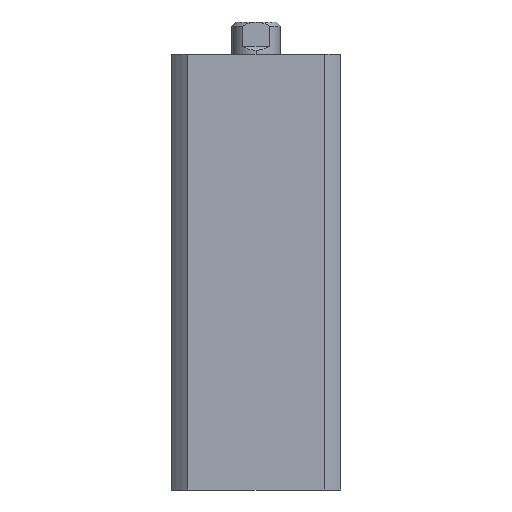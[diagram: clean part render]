
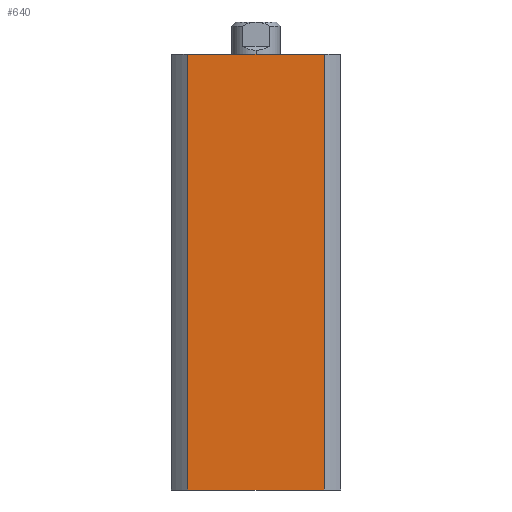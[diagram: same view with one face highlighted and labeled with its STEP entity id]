
A CAD part, left-side view. The second image highlights one B-rep face of the part: STEP entity #640.
In plain terms, the highlighted planar face has unit normal (-1, 0, 0).
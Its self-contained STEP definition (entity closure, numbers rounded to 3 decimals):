
#3 = VERTEX_POINT ( 'NONE', #295 ) ;
#295 = CARTESIAN_POINT ( 'NONE',  ( -21., -16.971, 108. ) ) ;
#574 = EDGE_CURVE ( 'NONE', #1599, #3, #1877, .T. ) ;
#582 = EDGE_CURVE ( 'NONE', #3, #790, #2129, .T. ) ;
#583 = EDGE_CURVE ( 'NONE', #1583, #1599, #2128, .T. ) ;
#640 = ADVANCED_FACE ( 'NONE', ( #2227 ), #2640, .F. ) ;
#790 = VERTEX_POINT ( 'NONE', #3564 ) ;
#958 = ORIENTED_EDGE ( 'NONE', *, *, #582, .F. ) ;
#959 = ORIENTED_EDGE ( 'NONE', *, *, #574, .F. ) ;
#960 = ORIENTED_EDGE ( 'NONE', *, *, #583, .F. ) ;
#961 = ORIENTED_EDGE ( 'NONE', *, *, #1156, .T. ) ;
#1156 = EDGE_CURVE ( 'NONE', #1583, #790, #4355, .T. ) ;
#1583 = VERTEX_POINT ( 'NONE', #4848 ) ;
#1599 = VERTEX_POINT ( 'NONE', #4859 ) ;
#1764 = EDGE_LOOP ( 'NONE', ( #958, #959, #960, #961 ) ) ;
#1877 = LINE ( 'NONE', #1936, #1882 ) ;
#1882 = VECTOR ( 'NONE', #1930, 1000. ) ;
#1930 = DIRECTION ( 'NONE',  ( 0., -1., 0. ) ) ;
#1936 = CARTESIAN_POINT ( 'NONE',  ( -21., 21., 108. ) ) ;
#1955 = CARTESIAN_POINT ( 'NONE',  ( -21., -16.971, 108. ) ) ;
#1956 = DIRECTION ( 'NONE',  ( 0., 0., -1. ) ) ;
#1957 = CARTESIAN_POINT ( 'NONE',  ( -21., 16.971, 108. ) ) ;
#1958 = DIRECTION ( 'NONE',  ( 0., 0., 1. ) ) ;
#2128 = LINE ( 'NONE', #1957, #2132 ) ;
#2129 = LINE ( 'NONE', #1955, #2130 ) ;
#2130 = VECTOR ( 'NONE', #1956, 1000. ) ;
#2132 = VECTOR ( 'NONE', #1958, 1000. ) ;
#2227 = FACE_OUTER_BOUND ( 'NONE', #1764, .T. ) ;
#2453 = AXIS2_PLACEMENT_3D ( 'NONE', #2642, #2643, #2644 ) ;
#2640 = PLANE ( 'NONE',  #2453 ) ;
#2642 = CARTESIAN_POINT ( 'NONE',  ( -21., 21., 108. ) ) ;
#2643 = DIRECTION ( 'NONE',  ( 1., 0., 0. ) ) ;
#2644 = DIRECTION ( 'NONE',  ( 0., 1., 0. ) ) ;
#3564 = CARTESIAN_POINT ( 'NONE',  ( -21., -16.971, 0. ) ) ;
#4107 = DIRECTION ( 'NONE',  ( 0., -1., 0. ) ) ;
#4111 = CARTESIAN_POINT ( 'NONE',  ( -21., 21., 0. ) ) ;
#4355 = LINE ( 'NONE', #4111, #4357 ) ;
#4357 = VECTOR ( 'NONE', #4107, 1000. ) ;
#4848 = CARTESIAN_POINT ( 'NONE',  ( -21., 16.971, 0. ) ) ;
#4859 = CARTESIAN_POINT ( 'NONE',  ( -21., 16.971, 108. ) ) ;
